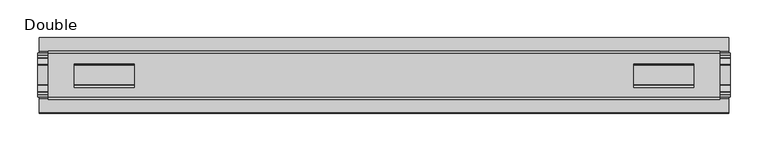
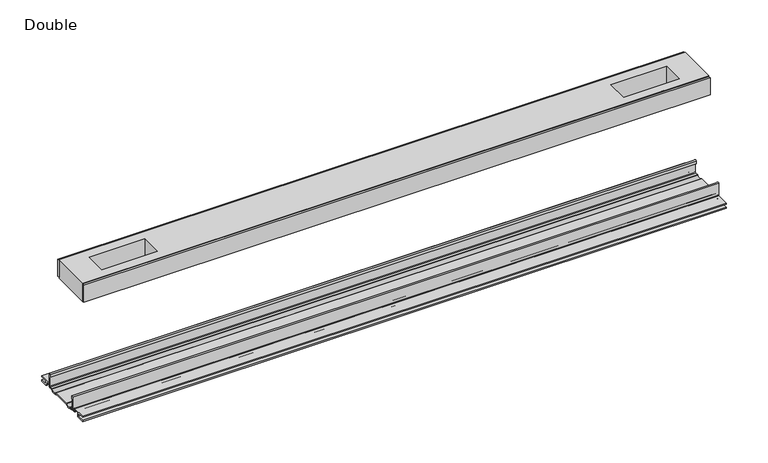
"""IFC4 building model written with IfcOpenShell, lengths in millimetres: proxy geometry, Frame-Teknion-FHCRA-Horizontal_Rail-R2022 : Double."""

import ifcopenshell
import ifcopenshell.guid

model = None  # the IFC model being written
_history = None  # IfcOwnerHistory: only IFC2X3 demands one
_inside = {}  # id of a spatial element -> (the spatial element, [elements in it])
_under = {}  # id of a project, library or spatial element -> (it, [spatial elements below it])
_declared = {}  # id of a project -> (the project, [libraries it declares])
_typed = {}  # id of a type object -> (the type object, [elements of that type])
_made_of = {}  # id of a material, layer set ... -> (it, [elements and type objects made of it])


def new_model(schema):
    """Start an empty IFC model of exactly this schema.

    Asked for "IFC4X3", IfcOpenShell would pick the latest addendum, in which some entities
    have other attributes; the version numbers below select the first issue.
    IFC2X3 requires an IfcOwnerHistory on every rooted entity: one is made here for all.
    """
    global model, _history
    if schema == "IFC4X3":
        model = ifcopenshell.file(schema_version=(4, 3, 0, 0))
    else:
        model = ifcopenshell.file(schema=schema)
    _inside.clear()
    _under.clear()
    _declared.clear()
    _typed.clear()
    _made_of.clear()
    _history = None
    if model.schema == "IFC2X3":
        org = make("IfcOrganization", Name="unknown")
        user = make(
            "IfcPersonAndOrganization",
            ThePerson=make("IfcPerson", FamilyName="unknown"),
            TheOrganization=org,
        )
        app = make(
            "IfcApplication",
            ApplicationDeveloper=org,
            Version="unknown",
            ApplicationFullName="unknown",
            ApplicationIdentifier="unknown",
        )
        _history = make(
            "IfcOwnerHistory",
            OwningUser=user,
            OwningApplication=app,
            ChangeAction="ADDED",
            CreationDate=0,
        )
    return model


def make(cls, **values):
    """One entity of the class cls with the attributes given. An attribute that is None is left unset."""
    return model.create_entity(
        cls, **{name: value for name, value in values.items() if value is not None}
    )


def rooted(cls, **values):
    """An entity with a GlobalId (a new one), such as an element, a storey or a relation."""
    return make(cls, GlobalId=ifcopenshell.guid.new(), OwnerHistory=_history, **values)


def si_unit(unit_type, name, prefix=None):
    """IfcSIUnit, for example si_unit("LENGTHUNIT", "METRE", prefix="MILLI")."""
    return make("IfcSIUnit", UnitType=unit_type, Prefix=prefix, Name=name)


def assignment(units):
    """IfcUnitAssignment: the units of a project."""
    return None if units is None else make("IfcUnitAssignment", Units=units)


def point(xyz):
    """IfcCartesianPoint."""
    return None if xyz is None else make("IfcCartesianPoint", Coordinates=xyz)


def direction(xyz):
    """IfcDirection."""
    return None if xyz is None else make("IfcDirection", DirectionRatios=xyz)


def frame(location, z_axis=None, x_axis=None):
    """IfcAxis2Placement3D, a coordinate frame: its origin and axes. An axis left out is left unset."""
    return make(
        "IfcAxis2Placement3D",
        Location=point(location),
        Axis=direction(z_axis),
        RefDirection=direction(x_axis),
    )


def frame_2d(location, x_axis=None):
    """IfcAxis2Placement2D, a coordinate frame in the plane: its origin and x axis."""
    return make(
        "IfcAxis2Placement2D", Location=point(location), RefDirection=direction(x_axis)
    )


def origin():
    """The frame at (0, 0, 0) with its axes left unset."""
    return frame((0.0, 0.0, 0.0))


def place(relative_to, where):
    """IfcLocalPlacement: puts the frame where relative to a parent placement (None: the world)."""
    return make(
        "IfcLocalPlacement", PlacementRelTo=relative_to, RelativePlacement=where
    )


def context(
    kind, dimensions, precision=None, world=None, true_north=None, identifier=None
):
    """IfcGeometricRepresentationContext, for example the 3D "Model" context."""
    return make(
        "IfcGeometricRepresentationContext",
        ContextIdentifier=identifier,
        ContextType=kind,
        CoordinateSpaceDimension=dimensions,
        Precision=precision,
        WorldCoordinateSystem=world,
        TrueNorth=true_north,
    )


def project(units=None, contexts=None):
    """IfcProject with its units and contexts."""
    return rooted(
        "IfcProject",
        Name="project",
        RepresentationContexts=contexts,
        UnitsInContext=assignment(units),
    )


def spatial(cls, under=None, at=None, **own):
    """A site, building, storey or space (cls), placed at a placement, below another one or the project."""
    s = rooted(cls, ObjectPlacement=at, **own)
    if under is not None:
        _under.setdefault(under.id(), (under, []))[1].append(s)
    return s


def polyline(points):
    """IfcPolyline through the points."""
    return make("IfcPolyline", Points=[point(p) for p in points])


def circle_curve(where, radius):
    """IfcCircle in the frame where."""
    return make("IfcCircle", Position=where, Radius=radius)


def trimmed(basis, trim1, trim2, sense, master):
    """IfcTrimmedCurve: the piece of a basis curve between two trims."""
    return make(
        "IfcTrimmedCurve",
        BasisCurve=basis,
        Trim1=trim1,
        Trim2=trim2,
        SenseAgreement=sense,
        MasterRepresentation=master,
    )


def segment(curve, same_sense, transition):
    """IfcCompositeCurveSegment."""
    return make(
        "IfcCompositeCurveSegment",
        Transition=transition,
        SameSense=same_sense,
        ParentCurve=curve,
    )


def composite_curve(segments, self_intersect=None):
    """IfcCompositeCurve: segments joined end to end."""
    return make("IfcCompositeCurve", Segments=segments, SelfIntersect=self_intersect)


def outline(outer, holes=None, kind="AREA"):
    """IfcArbitraryClosedProfileDef: a profile drawn as a closed curve; with holes, ...WithVoids."""
    if holes is None:
        return make("IfcArbitraryClosedProfileDef", ProfileType=kind, OuterCurve=outer)
    return make(
        "IfcArbitraryProfileDefWithVoids",
        ProfileType=kind,
        OuterCurve=outer,
        InnerCurves=holes,
    )


def extrude(swept, where, along, depth):
    """IfcExtrudedAreaSolid: the profile swept, set in the frame where, extruded along a direction by depth."""
    return make(
        "IfcExtrudedAreaSolid",
        SweptArea=swept,
        Position=where,
        ExtrudedDirection=direction(along),
        Depth=depth,
    )


def shape(context_of_items, identifier, shape_type, items):
    """IfcShapeRepresentation: the items that make up one representation, for example the "Body"."""
    return make(
        "IfcShapeRepresentation",
        ContextOfItems=context_of_items,
        RepresentationIdentifier=identifier,
        RepresentationType=shape_type,
        Items=items,
    )


def source(mapping_origin, context_of_items, identifier, shape_type, items):
    """IfcRepresentationMap: a shape defined once, which mapped items show again and again."""
    return make(
        "IfcRepresentationMap",
        MappingOrigin=mapping_origin,
        MappedRepresentation=shape(context_of_items, identifier, shape_type, items),
    )


def transform(
    local_origin,
    x_axis=None,
    y_axis=None,
    z_axis=None,
    scale=None,
    scale2=None,
    scale3=None,
    uniform=True,
):
    """IfcCartesianTransformationOperator3D, or its non-uniform kind. x_axis, y_axis, z_axis: its Axis1, 2, 3."""
    if uniform:
        return make(
            "IfcCartesianTransformationOperator3D",
            Axis1=direction(x_axis),
            Axis2=direction(y_axis),
            LocalOrigin=point(local_origin),
            Scale=scale,
            Axis3=direction(z_axis),
        )
    return make(
        "IfcCartesianTransformationOperator3DnonUniform",
        Axis1=direction(x_axis),
        Axis2=direction(y_axis),
        LocalOrigin=point(local_origin),
        Scale=scale,
        Axis3=direction(z_axis),
        Scale2=scale2,
        Scale3=scale3,
    )


def mapped(mapping_source, mapping_target):
    """IfcMappedItem: shows the shape of a source again, moved by a transform."""
    return make(
        "IfcMappedItem", MappingSource=mapping_source, MappingTarget=mapping_target
    )


def made_of(thing, what):
    """Note that an element or type object is made of a material, layer set ...; save() writes the relation."""
    if what is not None:
        _made_of.setdefault(what.id(), (what, []))[1].append(thing)
    return thing


def element(
    cls,
    number,
    at=None,
    inside=None,
    cuts=None,
    type_object=None,
    material=None,
    context=None,
    identifier="Body",
    shape_type=None,
    held_by="IfcProductDefinitionShape",
    body=None,
    shapes=None,
    **own,
):
    """One element of the class cls, such as IfcWall. Its Tag is "e" and its number.

    at: its placement. inside: the storey or other place that contains it. cuts: it is an
    opening in that element (IfcRelVoidsElement). A single representation is given by context,
    identifier, shape_type and body (its items); several are given by shapes. held_by: the class
    of the entity that holds the representations. save() writes the other relations.
    """
    e = rooted(cls, Tag="e%d" % number, ObjectPlacement=at, **own)
    if body is not None:
        shapes = [shape(context, identifier, shape_type, body)]
    if shapes is not None:
        e.Representation = make(held_by, Representations=shapes)
    if inside is not None:
        _inside.setdefault(inside.id(), (inside, []))[1].append(e)
    if cuts is not None:
        rooted(
            "IfcRelVoidsElement", RelatingBuildingElement=cuts, RelatedOpeningElement=e
        )
    if type_object is not None:
        _typed.setdefault(type_object.id(), (type_object, []))[1].append(e)
    return made_of(e, material)


def aggregate(whole, parts):
    """IfcRelAggregates: a whole, such as a stair, and the parts it consists of."""
    return rooted("IfcRelAggregates", RelatingObject=whole, RelatedObjects=parts)


def save(model, path):
    """Write the relations noted so far, then the file.

    IfcRelAggregates (storeys below a building ...), IfcRelContainedInSpatialStructure (elements
    in a storey), IfcRelDefinesByType, IfcRelAssociatesMaterial and IfcRelDeclares: one each for
    every whole, place, type object, material and project.
    """
    for whole, parts in _under.values():
        aggregate(whole, parts)
    for where, things in _inside.values():
        rooted(
            "IfcRelContainedInSpatialStructure",
            RelatedElements=things,
            RelatingStructure=where,
        )
    for kind, things in _typed.values():
        rooted("IfcRelDefinesByType", RelatedObjects=things, RelatingType=kind)
    for what, things in _made_of.values():
        rooted("IfcRelAssociatesMaterial", RelatedObjects=things, RelatingMaterial=what)
    for by, libraries in _declared.values():
        rooted("IfcRelDeclares", RelatingContext=by, RelatedDefinitions=libraries)
    model.write(path)


def double_4ddde976(model_context):
    return source(origin(), model_context, "Body", "SweptSolid", [
        extrude(outline(polyline([(444.4365091, -29.0068005), (444.4365091, -32.1817997), (-444.4365091, -32.1817997), (-444.4365091, -29.0068005), (444.4365091, -29.0068005)])), frame((0.0, 0.0, 149.8401622), z_axis=(0.0, 0.0, 1.0), x_axis=(1.0, 0.0, 0.0)), (0.0, 0.0, 1.0), 25.3999939),
        extrude(outline(polyline([(444.4365091, 32.1817997), (444.4365091, 29.0068005), (-444.4365091, 29.0068005), (-444.4365091, 32.1817997), (444.4365091, 32.1817997)])), frame((0.0, 0.0, 149.8401622), z_axis=(0.0, 0.0, 1.0), x_axis=(1.0, 0.0, 0.0)), (0.0, 0.0, 1.0), 25.3999939),
        extrude(outline(polyline([(444.4365091, 29.0068005), (444.4365091, -29.0068005), (-444.4365091, -29.0068005), (-444.4365091, 29.0068005), (444.4365091, 29.0068005)]), holes=[polyline([(410.0194965, 15.1130038), (330.9746847, 15.1130038), (330.9746847, -15.875003), (410.0194965, -15.875003), (410.0194965, 15.1130038)]), polyline([(-410.0194965, 15.1130038), (-410.0194965, -15.875003), (-330.9746847, -15.875003), (-330.9746847, 15.1130038), (-410.0194965, 15.1130038)])]), frame((0.0, 0.0, 148.4185847), z_axis=(0.0, 0.0, 1.0), x_axis=(1.0, 0.0, 0.0)), (0.0, 0.0, 1.0), 27.9999988),
        extrude(outline(composite_curve([segment(polyline([(-28.8162961, -7.7516037), (-28.8162961, 9.8607558)]), True, "CONTINUOUS"), segment(trimmed(circle_curve(frame_2d((-27.5970982, 9.8607558)), 1.2191979), [point((-28.8162961, 9.8607558))], [point((-26.3779003, 9.8607558))], False, "CARTESIAN"), True, "CONTINUOUS"), segment(polyline([(-26.3779003, 9.8607558), (-26.3779003, 5.9999563), (-27.6580769, 5.9999563), (-27.6580769, -7.7516037)]), True, "CONTINUOUS"), segment(trimmed(circle_curve(frame_2d((-26.6420561, -7.7516037)), 1.0160208), [point((-27.6580769, -7.7516037))], [point((-26.6485732, -8.7676036))], True, "CARTESIAN"), True, "CONTINUOUS"), segment(polyline([(-26.6485732, -8.7676036), (-22.7056226, -8.7676036), (-21.7922609, -8.968753)]), True, "CONTINUOUS"), segment(trimmed(circle_curve(frame_2d((-17.7673021, -6.1259382)), 4.9276657), [point((-21.7922609, -8.968753))], [point((-13.7423434, -8.968753))], True, "CARTESIAN"), True, "CONTINUOUS"), segment(polyline([(-13.7423434, -8.968753), (-12.8289726, -8.7676036), (13.2099722, -8.7676036), (14.123343, -8.968753)]), True, "CONTINUOUS"), segment(trimmed(circle_curve(frame_2d((18.1483018, -6.1259382)), 4.9276657), [point((14.123343, -8.968753))], [point((22.1732605, -8.968753))], True, "CARTESIAN"), True, "CONTINUOUS"), segment(polyline([(22.1732605, -8.968753), (23.0866222, -8.7676036), (27.0295728, -8.7676036)]), True, "CONTINUOUS"), segment(trimmed(circle_curve(frame_2d((27.0230557, -7.7516037)), 1.0160208), [point((27.0295728, -8.7676036))], [point((28.0390765, -7.7516037))], True, "CARTESIAN"), True, "CONTINUOUS"), segment(polyline([(28.0390765, -7.7516037), (28.0390765, 5.9999563), (26.7588999, 5.9999563), (26.7588999, 9.8607558)]), True, "CONTINUOUS"), segment(trimmed(circle_curve(frame_2d((27.9780978, 9.8607558)), 1.2191979), [point((26.7588999, 9.8607558))], [point((29.1972958, 9.8607558))], False, "CARTESIAN"), True, "CONTINUOUS"), segment(polyline([(29.1972958, 9.8607558), (29.1972958, -7.7516037)]), True, "CONTINUOUS"), segment(trimmed(circle_curve(frame_2d((27.0230557, -7.7516037)), 2.17424), [point((29.1972958, -7.7516037))], [point((27.0230557, -9.9258438))], False, "CARTESIAN"), True, "CONTINUOUS"), segment(polyline([(27.0230557, -9.9258438), (22.732069, -9.9258438)]), True, "CONTINUOUS"), segment(trimmed(circle_curve(frame_2d((18.1516545, -6.4800016)), 5.7318431), [point((22.732069, -9.9258438))], [point((13.57124, -9.9258438))], False, "CARTESIAN"), True, "CONTINUOUS"), segment(polyline([(13.57124, -9.9258438), (-13.1902404, -9.9258438)]), True, "CONTINUOUS"), segment(trimmed(circle_curve(frame_2d((-17.7706549, -6.4800016)), 5.7318431), [point((-13.1902404, -9.9258438))], [point((-22.3510694, -9.9258438))], False, "CARTESIAN"), True, "CONTINUOUS"), segment(polyline([(-22.3510694, -9.9258438), (-26.6420561, -9.9258438)]), True, "CONTINUOUS"), segment(trimmed(circle_curve(frame_2d((-26.6420561, -7.7516037)), 2.17424), [point((-26.6420561, -9.9258438))], [point((-28.8162961, -7.7516037))], False, "CARTESIAN"), True, "CONTINUOUS")], self_intersect=False)), frame((-458.4954, 0.0, 0.0), z_axis=(1.0, 0.0, 0.0), x_axis=(0.0, 1.0, 0.0)), (0.0, 0.0, 1.0), 916.9908),
        extrude(outline(composite_curve([segment(polyline([(-50.2668422, -13.9898438), (-50.2240211, -12.3388438), (-39.7827507, -12.3388438), (-39.7827507, -7.766844), (-50.2240211, -7.766844), (-50.2668422, -6.1158439), (-31.1784975, -6.1158439)]), True, "CONTINUOUS"), segment(trimmed(circle_curve(frame_2d((-31.1784975, -7.6398436)), 1.5239997), [point((-31.1784975, -6.1158439))], [point((-29.6544978, -7.6398436))], False, "CARTESIAN"), True, "CONTINUOUS"), segment(polyline([(-29.6544978, -7.6398436), (-29.6544978, -9.9258438), (-23.1058344, -9.9258438)]), True, "CONTINUOUS"), segment(trimmed(circle_curve(frame_2d((-17.7673021, -5.2268471)), 7.1119966), [point((-23.1058344, -9.9258438))], [point((-12.4287699, -9.9258438))], True, "CARTESIAN"), True, "CONTINUOUS"), segment(polyline([(-12.4287699, -9.9258438), (12.8097695, -9.9258438)]), True, "CONTINUOUS"), segment(trimmed(circle_curve(frame_2d((18.1483018, -5.2268471)), 7.1119966), [point((12.8097695, -9.9258438))], [point((23.486834, -9.9258438))], True, "CARTESIAN"), True, "CONTINUOUS"), segment(polyline([(23.486834, -9.9258438), (30.0354975, -9.9258438), (30.0354975, -7.7656583)]), True, "CONTINUOUS"), segment(trimmed(circle_curve(frame_2d((31.6864982, -7.7656583)), 1.6510007), [point((30.0354975, -7.7656583))], [point((31.6239218, -6.1158439))], False, "CARTESIAN"), True, "CONTINUOUS"), segment(polyline([(31.6239218, -6.1158439), (50.00625, -6.1158439), (50.00625, -7.766844), (40.1637503, -7.766844), (40.1637503, -12.3388438), (50.00625, -12.3388438), (50.00625, -13.9898438), (40.0367518, -13.9898438)]), True, "CONTINUOUS"), segment(trimmed(circle_curve(frame_2d((40.0367518, -12.4658438)), 1.524), [point((40.0367518, -13.9898438))], [point((38.5127519, -12.4658438))], False, "CARTESIAN"), True, "CONTINUOUS"), segment(polyline([(38.5127519, -12.4658438), (38.5127519, -7.766844), (31.686497, -7.766844), (31.686497, -10.0528438)]), True, "CONTINUOUS"), segment(trimmed(circle_curve(frame_2d((30.1624971, -10.0528438)), 1.524), [point((31.686497, -10.0528438))], [point((30.1624971, -11.5768438))], False, "CARTESIAN"), True, "CONTINUOUS"), segment(polyline([(30.1624971, -11.5768438), (23.6563549, -11.5768438)]), True, "CONTINUOUS"), segment(trimmed(circle_curve(frame_2d((18.1483018, -6.4968436)), 7.4930002), [point((23.6563549, -11.5768438))], [point((12.8904968, -11.8354331))], False, "CARTESIAN"), True, "CONTINUOUS"), segment(polyline([(12.8904968, -11.8354331), (-12.5094972, -11.8354331)]), True, "CONTINUOUS"), segment(trimmed(circle_curve(frame_2d((-17.7673021, -6.4968436)), 7.4930002), [point((-12.5094972, -11.8354331))], [point((-23.2753553, -11.5768438))], False, "CARTESIAN"), True, "CONTINUOUS"), segment(polyline([(-23.2753553, -11.5768438), (-29.7814974, -11.5768438)]), True, "CONTINUOUS"), segment(trimmed(circle_curve(frame_2d((-29.7814974, -10.0528438)), 1.524), [point((-29.7814974, -11.5768438))], [point((-31.3054974, -10.0528438))], False, "CARTESIAN"), True, "CONTINUOUS"), segment(polyline([(-31.3054974, -10.0528438), (-31.3054974, -7.766844), (-38.1317522, -7.766844), (-38.1317522, -12.4658438)]), True, "CONTINUOUS"), segment(trimmed(circle_curve(frame_2d((-39.6557522, -12.4658438)), 1.524), [point((-38.1317522, -12.4658438))], [point((-39.6557522, -13.9898438))], False, "CARTESIAN"), True, "CONTINUOUS"), segment(polyline([(-39.6557522, -13.9898438), (-50.2668422, -13.9898438)]), True, "CONTINUOUS")], self_intersect=False)), frame((-456.8444, 0.0, 0.0), z_axis=(1.0, 0.0, 0.0), x_axis=(0.0, 1.0, 0.0)), (0.0, 0.0, 1.0), 913.6888),
    ])


if __name__ == "__main__":
    model = new_model("IFC4")
    model_context = context("Model", 3, world=origin())
    ifc_project = project(units=[si_unit("LENGTHUNIT", "METRE", prefix="MILLI")], contexts=[model_context])
    site = spatial("IfcSite", under=ifc_project)
    building = spatial("IfcBuilding", under=site)
    placement = place(None, origin())
    double_shape = double_4ddde976(model_context)
    element("IfcBuildingElementProxy", 1, Name="Frame-Teknion-FHCRA-Horizontal_Rail-R2022 : Double", ObjectType="Frame-Teknion-FHCRA-Horizontal_Rail-R2022 : Double", at=placement, inside=building, context=model_context, shape_type="MappedRepresentation", body=[
        mapped(double_shape, transform((0.0, 0.0, 0.0), x_axis=(1.0, 0.0, 0.0), y_axis=(0.0, 1.0, 0.0), z_axis=(0.0, 0.0, 1.0))),
    ])
    save(model, "model.ifc")
